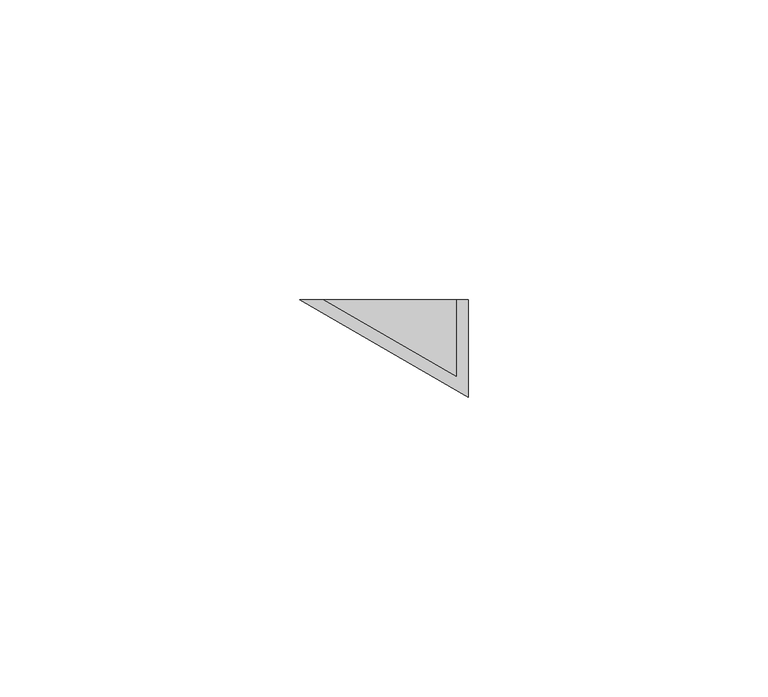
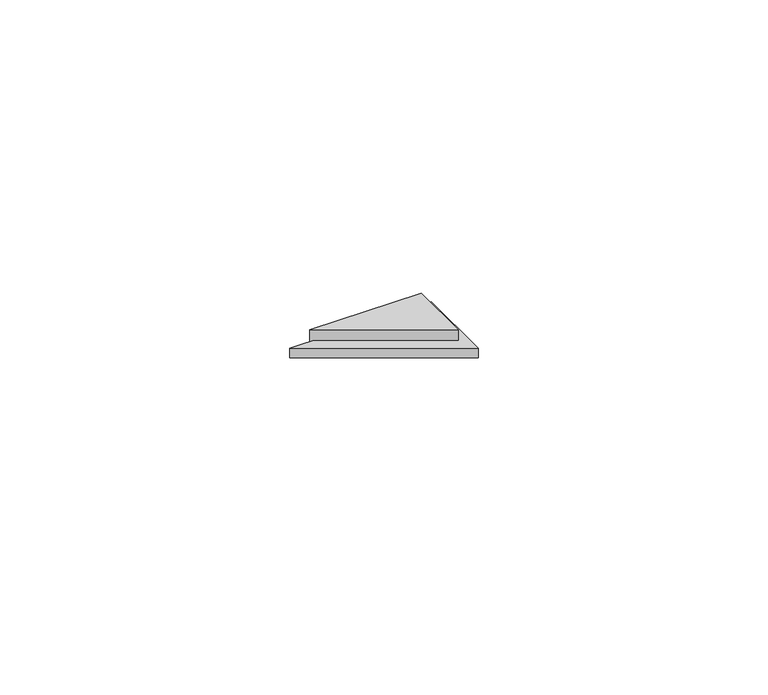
"""IFC4 building model written with IfcOpenShell, lengths in millimetres: proxy geometry, PBSHOP - CUBICA ARGENTO 4,8X8,3 : CUBICA ARGENTO - POSIÇÃO 01."""

import ifcopenshell
import ifcopenshell.guid

model = None  # the IFC model being written
_history = None  # IfcOwnerHistory: only IFC2X3 demands one
_inside = {}  # id of a spatial element -> (the spatial element, [elements in it])
_under = {}  # id of a project, library or spatial element -> (it, [spatial elements below it])
_declared = {}  # id of a project -> (the project, [libraries it declares])
_typed = {}  # id of a type object -> (the type object, [elements of that type])
_made_of = {}  # id of a material, layer set ... -> (it, [elements and type objects made of it])


def new_model(schema):
    """Start an empty IFC model of exactly this schema.

    Asked for "IFC4X3", IfcOpenShell would pick the latest addendum, in which some entities
    have other attributes; the version numbers below select the first issue.
    IFC2X3 requires an IfcOwnerHistory on every rooted entity: one is made here for all.
    """
    global model, _history
    if schema == "IFC4X3":
        model = ifcopenshell.file(schema_version=(4, 3, 0, 0))
    else:
        model = ifcopenshell.file(schema=schema)
    _inside.clear()
    _under.clear()
    _declared.clear()
    _typed.clear()
    _made_of.clear()
    _history = None
    if model.schema == "IFC2X3":
        org = make("IfcOrganization", Name="unknown")
        user = make(
            "IfcPersonAndOrganization",
            ThePerson=make("IfcPerson", FamilyName="unknown"),
            TheOrganization=org,
        )
        app = make(
            "IfcApplication",
            ApplicationDeveloper=org,
            Version="unknown",
            ApplicationFullName="unknown",
            ApplicationIdentifier="unknown",
        )
        _history = make(
            "IfcOwnerHistory",
            OwningUser=user,
            OwningApplication=app,
            ChangeAction="ADDED",
            CreationDate=0,
        )
    return model


def make(cls, **values):
    """One entity of the class cls with the attributes given. An attribute that is None is left unset."""
    return model.create_entity(
        cls, **{name: value for name, value in values.items() if value is not None}
    )


def rooted(cls, **values):
    """An entity with a GlobalId (a new one), such as an element, a storey or a relation."""
    return make(cls, GlobalId=ifcopenshell.guid.new(), OwnerHistory=_history, **values)


def si_unit(unit_type, name, prefix=None):
    """IfcSIUnit, for example si_unit("LENGTHUNIT", "METRE", prefix="MILLI")."""
    return make("IfcSIUnit", UnitType=unit_type, Prefix=prefix, Name=name)


def assignment(units):
    """IfcUnitAssignment: the units of a project."""
    return None if units is None else make("IfcUnitAssignment", Units=units)


def point(xyz):
    """IfcCartesianPoint."""
    return None if xyz is None else make("IfcCartesianPoint", Coordinates=xyz)


def direction(xyz):
    """IfcDirection."""
    return None if xyz is None else make("IfcDirection", DirectionRatios=xyz)


def frame(location, z_axis=None, x_axis=None):
    """IfcAxis2Placement3D, a coordinate frame: its origin and axes. An axis left out is left unset."""
    return make(
        "IfcAxis2Placement3D",
        Location=point(location),
        Axis=direction(z_axis),
        RefDirection=direction(x_axis),
    )


def origin():
    """The frame at (0, 0, 0) with its axes left unset."""
    return frame((0.0, 0.0, 0.0))


def origin_with_axes():
    """The frame at (0, 0, 0) with the z axis (0, 0, 1) and the x axis (1, 0, 0) written out."""
    return frame((0.0, 0.0, 0.0), z_axis=(0.0, 0.0, 1.0), x_axis=(1.0, 0.0, 0.0))


def place(relative_to, where):
    """IfcLocalPlacement: puts the frame where relative to a parent placement (None: the world)."""
    return make(
        "IfcLocalPlacement", PlacementRelTo=relative_to, RelativePlacement=where
    )


def context(
    kind, dimensions, precision=None, world=None, true_north=None, identifier=None
):
    """IfcGeometricRepresentationContext, for example the 3D "Model" context."""
    return make(
        "IfcGeometricRepresentationContext",
        ContextIdentifier=identifier,
        ContextType=kind,
        CoordinateSpaceDimension=dimensions,
        Precision=precision,
        WorldCoordinateSystem=world,
        TrueNorth=true_north,
    )


def project(units=None, contexts=None):
    """IfcProject with its units and contexts."""
    return rooted(
        "IfcProject",
        Name="project",
        RepresentationContexts=contexts,
        UnitsInContext=assignment(units),
    )


def spatial(cls, under=None, at=None, **own):
    """A site, building, storey or space (cls), placed at a placement, below another one or the project."""
    s = rooted(cls, ObjectPlacement=at, **own)
    if under is not None:
        _under.setdefault(under.id(), (under, []))[1].append(s)
    return s


def polyline(points):
    """IfcPolyline through the points."""
    return make("IfcPolyline", Points=[point(p) for p in points])


def outline(outer, holes=None, kind="AREA"):
    """IfcArbitraryClosedProfileDef: a profile drawn as a closed curve; with holes, ...WithVoids."""
    if holes is None:
        return make("IfcArbitraryClosedProfileDef", ProfileType=kind, OuterCurve=outer)
    return make(
        "IfcArbitraryProfileDefWithVoids",
        ProfileType=kind,
        OuterCurve=outer,
        InnerCurves=holes,
    )


def extrude(swept, where, along, depth):
    """IfcExtrudedAreaSolid: the profile swept, set in the frame where, extruded along a direction by depth."""
    return make(
        "IfcExtrudedAreaSolid",
        SweptArea=swept,
        Position=where,
        ExtrudedDirection=direction(along),
        Depth=depth,
    )


def shape(context_of_items, identifier, shape_type, items):
    """IfcShapeRepresentation: the items that make up one representation, for example the "Body"."""
    return make(
        "IfcShapeRepresentation",
        ContextOfItems=context_of_items,
        RepresentationIdentifier=identifier,
        RepresentationType=shape_type,
        Items=items,
    )


def source(mapping_origin, context_of_items, identifier, shape_type, items):
    """IfcRepresentationMap: a shape defined once, which mapped items show again and again."""
    return make(
        "IfcRepresentationMap",
        MappingOrigin=mapping_origin,
        MappedRepresentation=shape(context_of_items, identifier, shape_type, items),
    )


def transform(
    local_origin,
    x_axis=None,
    y_axis=None,
    z_axis=None,
    scale=None,
    scale2=None,
    scale3=None,
    uniform=True,
):
    """IfcCartesianTransformationOperator3D, or its non-uniform kind. x_axis, y_axis, z_axis: its Axis1, 2, 3."""
    if uniform:
        return make(
            "IfcCartesianTransformationOperator3D",
            Axis1=direction(x_axis),
            Axis2=direction(y_axis),
            LocalOrigin=point(local_origin),
            Scale=scale,
            Axis3=direction(z_axis),
        )
    return make(
        "IfcCartesianTransformationOperator3DnonUniform",
        Axis1=direction(x_axis),
        Axis2=direction(y_axis),
        LocalOrigin=point(local_origin),
        Scale=scale,
        Axis3=direction(z_axis),
        Scale2=scale2,
        Scale3=scale3,
    )


def mapped(mapping_source, mapping_target):
    """IfcMappedItem: shows the shape of a source again, moved by a transform."""
    return make(
        "IfcMappedItem", MappingSource=mapping_source, MappingTarget=mapping_target
    )


def made_of(thing, what):
    """Note that an element or type object is made of a material, layer set ...; save() writes the relation."""
    if what is not None:
        _made_of.setdefault(what.id(), (what, []))[1].append(thing)
    return thing


def element(
    cls,
    number,
    at=None,
    inside=None,
    cuts=None,
    type_object=None,
    material=None,
    context=None,
    identifier="Body",
    shape_type=None,
    held_by="IfcProductDefinitionShape",
    body=None,
    shapes=None,
    **own,
):
    """One element of the class cls, such as IfcWall. Its Tag is "e" and its number.

    at: its placement. inside: the storey or other place that contains it. cuts: it is an
    opening in that element (IfcRelVoidsElement). A single representation is given by context,
    identifier, shape_type and body (its items); several are given by shapes. held_by: the class
    of the entity that holds the representations. save() writes the other relations.
    """
    e = rooted(cls, Tag="e%d" % number, ObjectPlacement=at, **own)
    if body is not None:
        shapes = [shape(context, identifier, shape_type, body)]
    if shapes is not None:
        e.Representation = make(held_by, Representations=shapes)
    if inside is not None:
        _inside.setdefault(inside.id(), (inside, []))[1].append(e)
    if cuts is not None:
        rooted(
            "IfcRelVoidsElement", RelatingBuildingElement=cuts, RelatedOpeningElement=e
        )
    if type_object is not None:
        _typed.setdefault(type_object.id(), (type_object, []))[1].append(e)
    return made_of(e, material)


def aggregate(whole, parts):
    """IfcRelAggregates: a whole, such as a stair, and the parts it consists of."""
    return rooted("IfcRelAggregates", RelatingObject=whole, RelatedObjects=parts)


def save(model, path):
    """Write the relations noted so far, then the file.

    IfcRelAggregates (storeys below a building ...), IfcRelContainedInSpatialStructure (elements
    in a storey), IfcRelDefinesByType, IfcRelAssociatesMaterial and IfcRelDeclares: one each for
    every whole, place, type object, material and project.
    """
    for whole, parts in _under.values():
        aggregate(whole, parts)
    for where, things in _inside.values():
        rooted(
            "IfcRelContainedInSpatialStructure",
            RelatedElements=things,
            RelatingStructure=where,
        )
    for kind, things in _typed.values():
        rooted("IfcRelDefinesByType", RelatedObjects=things, RelatingType=kind)
    for what, things in _made_of.values():
        rooted("IfcRelAssociatesMaterial", RelatedObjects=things, RelatingMaterial=what)
    for by, libraries in _declared.values():
        rooted("IfcRelDeclares", RelatingContext=by, RelatedDefinitions=libraries)
    model.write(path)


def generic_models_65d4feed(model_context):
    return source(origin(), model_context, "Body", "SweptSolid", [
        extrude(outline(polyline([(22.7119765, -23.160254), (22.7119765, -39.4221668), (-5.4544827, -23.160254), (22.7119765, -23.160254)])), origin_with_axes(), (0.0, 0.0, 1.0), 2.0),
        extrude(outline(polyline([(20.7119765, -23.160254), (20.7119765, -35.9580652), (-1.4544827, -23.160254), (20.7119765, -23.160254)])), frame((0.0, 0.0, 2.0), z_axis=(0.0, 0.0, 1.0), x_axis=(1.0, 0.0, 0.0)), (0.0, 0.0, 1.0), 2.5),
    ])


if __name__ == "__main__":
    model = new_model("IFC4")
    model_context = context("Model", 3, world=origin())
    ifc_project = project(units=[si_unit("LENGTHUNIT", "METRE", prefix="MILLI")], contexts=[model_context])
    site = spatial("IfcSite", under=ifc_project)
    building = spatial("IfcBuilding", under=site)
    placement = place(None, origin())
    generic_models_shape = generic_models_65d4feed(model_context)
    element("IfcBuildingElementProxy", 1, Name="PBSHOP - CUBICA ARGENTO 4,8X8,3 : CUBICA ARGENTO - POSIÇÃO 01", ObjectType="PBSHOP - CUBICA ARGENTO 4,8X8,3 : CUBICA ARGENTO - POSIÇÃO 01", at=placement, inside=building, context=model_context, shape_type="MappedRepresentation", body=[
        mapped(generic_models_shape, transform((0.0, 0.0, 0.0), x_axis=(1.0, 0.0, 0.0), y_axis=(0.0, 1.0, 0.0), z_axis=(0.0, 0.0, 1.0))),
    ])
    save(model, "model.ifc")
